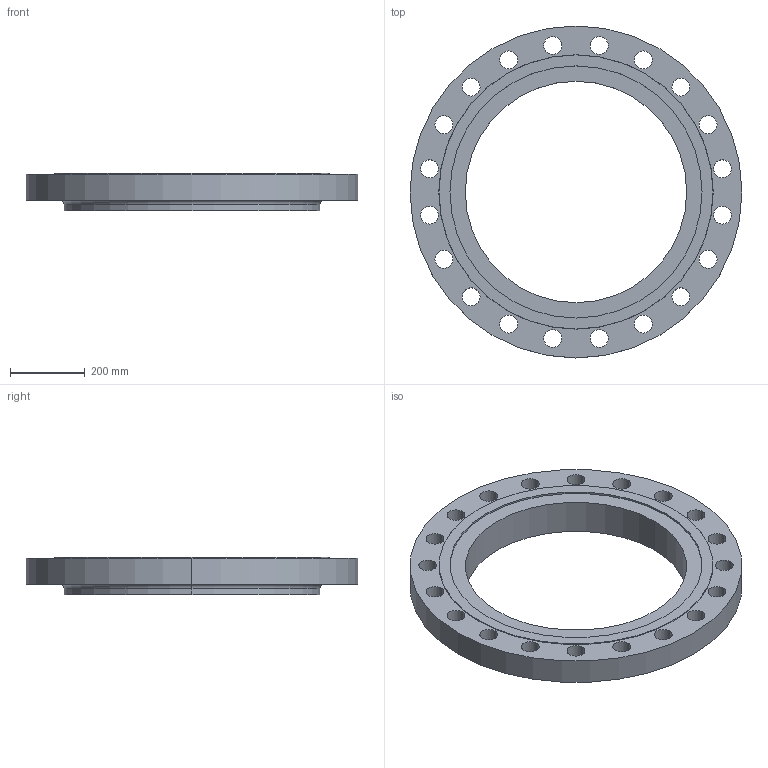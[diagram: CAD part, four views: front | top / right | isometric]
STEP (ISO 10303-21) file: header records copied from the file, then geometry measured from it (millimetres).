
FILE_DESCRIPTION (( 'STEP AP214' ), '1' );
FILE_NAME ('PN40 DN600 Type 13 - Type F Face.STEP', '2018-12-28T22:57:43', ( '' ), ( '' ), 'SwSTEP 2.0', 'SolidWorks 2019', '' );
FILE_SCHEMA (( 'AUTOMOTIVE_DESIGN' ));
Length unit declared in the file: millimetre
Products named in the file (1): PN40 DN600 Type 13 - Type F Face
Bounding box: 890 x 890 x 100 mm (x, y, z)
Volume: 24203283.1 mm3; surface area: 1266307.3 mm2
Topology: 1 solids, 1 shells, 57 faces, 154 edges, 102 vertices
Faces by surface type: cylinder 48, plane 5, torus 2, cone 2
Entity records: 1974 total; most frequent: DIRECTION 374, CARTESIAN_POINT 314, ORIENTED_EDGE 308, AXIS2_PLACEMENT_3D 162, EDGE_CURVE 154, CIRCLE 104, EDGE_LOOP 102, VERTEX_POINT 102
